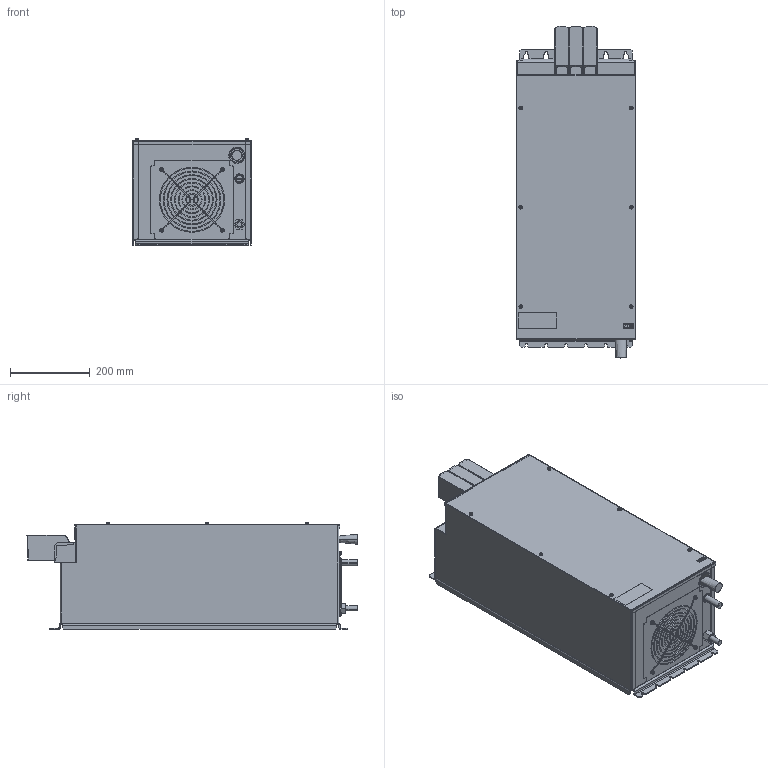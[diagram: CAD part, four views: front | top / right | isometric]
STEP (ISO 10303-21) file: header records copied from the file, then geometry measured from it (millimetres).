
FILE_DESCRIPTION (( 'STEP AP214' ), '1' );
FILE_NAME ('26H6J4G-1000.STEP', '2010-12-09T13:44:22', ( 'KEB' ), ( 'Karl E. Brinkmann GmbH' ), 'SwSTEP 2.0', 'SolidWorks 2007', '' );
FILE_SCHEMA (( 'AUTOMOTIVE_DESIGN' ));
Length unit declared in the file: millimetre
Products named in the file (1): 26H6J4G-1000
Bounding box: 299 x 835.26 x 269.04 mm (x, y, z)
Volume: 2281086.8 mm3; surface area: 2177631.6 mm2
Topology: 41 solids, 41 shells, 1186 faces, 2976 edges, 1851 vertices
Faces by surface type: plane 596, cylinder 364, torus 148, sphere 44, cone 20, bspline 14
Entity records: 49588 total; most frequent: CARTESIAN_POINT 7270, DIRECTION 6291, ORIENTED_EDGE 5916, EDGE_CURVE 2958, AXIS2_PLACEMENT_3D 2288, VERTEX_POINT 1851, VECTOR 1715, LINE 1715
